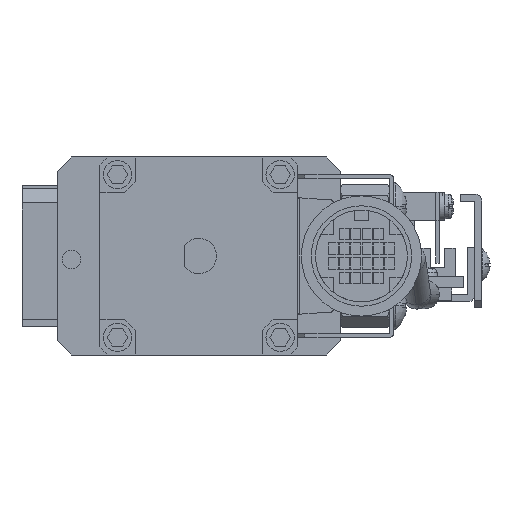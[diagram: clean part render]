
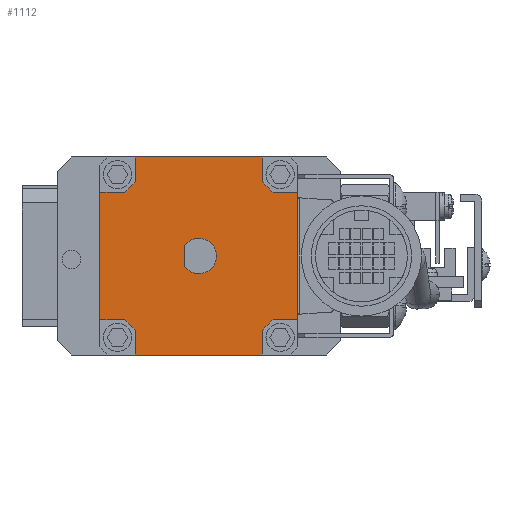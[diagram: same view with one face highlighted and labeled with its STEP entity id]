
A CAD part, left-side view. The second image highlights one B-rep face of the part: STEP entity #1112.
In plain terms, the highlighted planar face has unit normal (-1, 0, 0).
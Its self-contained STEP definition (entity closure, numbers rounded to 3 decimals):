
#529 = CARTESIAN_POINT ( 'NONE',  ( -74.363, 103.331, 38.5 ) ) ;
#954 = ORIENTED_EDGE ( 'NONE', *, *, #50451, .T. ) ;
#1112 = ADVANCED_FACE ( 'NONE', ( #11619, #63358 ), #10373, .F. ) ;
#1657 = CIRCLE ( 'NONE', #27062, 19. ) ;
#1944 = LINE ( 'NONE', #62813, #53727 ) ;
#2483 = DIRECTION ( 'NONE',  ( 0., 0., -1. ) ) ;
#2631 = VERTEX_POINT ( 'NONE', #10385 ) ;
#2769 = VECTOR ( 'NONE', #18935, 1000. ) ;
#4352 = LINE ( 'NONE', #19403, #2769 ) ;
#4494 = EDGE_CURVE ( 'NONE', #63801, #58887, #20079, .T. ) ;
#5332 = CARTESIAN_POINT ( 'NONE',  ( -74.363, 83.831, 15.5 ) ) ;
#5465 = CIRCLE ( 'NONE', #25545, 2.5 ) ;
#5474 = LINE ( 'NONE', #5332, #13369 ) ;
#5578 = VECTOR ( 'NONE', #45300, 1000. ) ;
#5681 = ORIENTED_EDGE ( 'NONE', *, *, #40330, .T. ) ;
#6122 = LINE ( 'NONE', #6175, #63357 ) ;
#6175 = CARTESIAN_POINT ( 'NONE',  ( -74.363, 94.831, 31. ) ) ;
#6346 = ORIENTED_EDGE ( 'NONE', *, *, #27405, .T. ) ;
#7265 = EDGE_CURVE ( 'NONE', #49440, #25415, #31714, .T. ) ;
#7278 = VERTEX_POINT ( 'NONE', #46559 ) ;
#7806 = EDGE_CURVE ( 'NONE', #49226, #63327, #6122, .T. ) ;
#8194 = CARTESIAN_POINT ( 'NONE',  ( -74.363, 69.667, 52.664 ) ) ;
#8233 = CARTESIAN_POINT ( 'NONE',  ( -74.363, 82.331, 20.5 ) ) ;
#9307 = VERTEX_POINT ( 'NONE', #55576 ) ;
#9453 = DIRECTION ( 'NONE',  ( 1., 0., 0. ) ) ;
#9458 = AXIS2_PLACEMENT_3D ( 'NONE', #22003, #57069, #32111 ) ;
#10024 = DIRECTION ( 'NONE',  ( 1., 0., 0. ) ) ;
#10373 = PLANE ( 'NONE',  #22085 ) ;
#10385 = CARTESIAN_POINT ( 'NONE',  ( -74.363, 101.831, 40. ) ) ;
#10410 = CARTESIAN_POINT ( 'NONE',  ( -74.363, 83.831, 15.5 ) ) ;
#10616 = CARTESIAN_POINT ( 'NONE',  ( -74.363, 78.831, 20.5 ) ) ;
#11520 = CARTESIAN_POINT ( 'NONE',  ( -74.363, 69.667, 6.336 ) ) ;
#11619 = FACE_OUTER_BOUND ( 'NONE', #40544, .T. ) ;
#11694 = CARTESIAN_POINT ( 'NONE',  ( -74.363, 63.133, 59.198 ) ) ;
#11892 = AXIS2_PLACEMENT_3D ( 'NONE', #11520, #41988, #11927 ) ;
#11927 = DIRECTION ( 'NONE',  ( 0., 0.745, 0.667 ) ) ;
#11972 = DIRECTION ( 'NONE',  ( 0., 1., 0. ) ) ;
#13369 = VECTOR ( 'NONE', #40433, 1000. ) ;
#13993 = ORIENTED_EDGE ( 'NONE', *, *, #22804, .T. ) ;
#16371 = ORIENTED_EDGE ( 'NONE', *, *, #30562, .T. ) ;
#16509 = DIRECTION ( 'NONE',  ( 1., 0., 0. ) ) ;
#16835 = LINE ( 'NONE', #55783, #34108 ) ;
#17530 = CIRCLE ( 'NONE', #9458, 19. ) ;
#18093 = CARTESIAN_POINT ( 'NONE',  ( -74.363, 106.831, 20.5 ) ) ;
#18472 = LINE ( 'NONE', #46272, #40459 ) ;
#18625 = CARTESIAN_POINT ( 'NONE',  ( -74.363, 83.831, 19. ) ) ;
#18631 = EDGE_CURVE ( 'NONE', #9307, #63724, #16835, .T. ) ;
#18748 = DIRECTION ( 'NONE',  ( 1., 0., 0. ) ) ;
#18935 = DIRECTION ( 'NONE',  ( 0., 0., -1. ) ) ;
#19403 = CARTESIAN_POINT ( 'NONE',  ( -74.363, 78.831, 38.5 ) ) ;
#19408 = VERTEX_POINT ( 'NONE', #52588 ) ;
#20079 = LINE ( 'NONE', #54987, #31851 ) ;
#20911 = CARTESIAN_POINT ( 'NONE',  ( -74.363, 82.331, 20.5 ) ) ;
#21170 = ORIENTED_EDGE ( 'NONE', *, *, #56461, .F. ) ;
#22003 = CARTESIAN_POINT ( 'NONE',  ( -74.363, 115.995, 6.336 ) ) ;
#22085 = AXIS2_PLACEMENT_3D ( 'NONE', #11694, #16509, #36268 ) ;
#22309 = EDGE_CURVE ( 'NONE', #37352, #49440, #23658, .T. ) ;
#22804 = EDGE_CURVE ( 'NONE', #30949, #7278, #40106, .T. ) ;
#23551 = ORIENTED_EDGE ( 'NONE', *, *, #40292, .F. ) ;
#23574 = VECTOR ( 'NONE', #45811, 1000. ) ;
#23633 = ORIENTED_EDGE ( 'NONE', *, *, #62615, .T. ) ;
#23658 = LINE ( 'NONE', #10410, #5578 ) ;
#24232 = CARTESIAN_POINT ( 'NONE',  ( -74.363, 101.831, 15.5 ) ) ;
#25017 = DIRECTION ( 'NONE',  ( 0., -1., 0. ) ) ;
#25112 = DIRECTION ( 'NONE',  ( 0., 0., 1. ) ) ;
#25415 = VERTEX_POINT ( 'NONE', #8233 ) ;
#25545 = AXIS2_PLACEMENT_3D ( 'NONE', #34836, #10024, #55386 ) ;
#26365 = CARTESIAN_POINT ( 'NONE',  ( -74.363, 94.831, 31. ) ) ;
#26789 = DIRECTION ( 'NONE',  ( 0., 1., 0. ) ) ;
#27015 = DIRECTION ( 'NONE',  ( 0., -1., 0. ) ) ;
#27062 = AXIS2_PLACEMENT_3D ( 'NONE', #49396, #18748, #58848 ) ;
#27102 = VECTOR ( 'NONE', #42673, 1000. ) ;
#27405 = EDGE_CURVE ( 'NONE', #2631, #30949, #1657, .T. ) ;
#27429 = CARTESIAN_POINT ( 'NONE',  ( -74.363, 103.331, 20.5 ) ) ;
#27782 = ORIENTED_EDGE ( 'NONE', *, *, #30025, .T. ) ;
#28767 = CARTESIAN_POINT ( 'NONE',  ( -74.363, 78.831, 38.5 ) ) ;
#30025 = EDGE_CURVE ( 'NONE', #49226, #63327, #5465, .T. ) ;
#30067 = ORIENTED_EDGE ( 'NONE', *, *, #7806, .F. ) ;
#30115 = CARTESIAN_POINT ( 'NONE',  ( -74.363, 94.831, 28. ) ) ;
#30562 = EDGE_CURVE ( 'NONE', #19408, #40909, #32882, .T. ) ;
#30949 = VERTEX_POINT ( 'NONE', #31066 ) ;
#31066 = CARTESIAN_POINT ( 'NONE',  ( -74.363, 103.331, 38.5 ) ) ;
#31714 = CIRCLE ( 'NONE', #11892, 19. ) ;
#31851 = VECTOR ( 'NONE', #25017, 1000. ) ;
#32111 = DIRECTION ( 'NONE',  ( 0., -0.667, 0.745 ) ) ;
#32813 = CARTESIAN_POINT ( 'NONE',  ( -74.363, 101.831, 19. ) ) ;
#32882 = CIRCLE ( 'NONE', #38595, 19. ) ;
#33606 = VECTOR ( 'NONE', #27015, 1000. ) ;
#33659 = ORIENTED_EDGE ( 'NONE', *, *, #4494, .F. ) ;
#34108 = VECTOR ( 'NONE', #45714, 1000. ) ;
#34228 = ORIENTED_EDGE ( 'NONE', *, *, #7265, .T. ) ;
#34377 = LINE ( 'NONE', #20911, #33606 ) ;
#34649 = CARTESIAN_POINT ( 'NONE',  ( -74.363, 83.831, 15.5 ) ) ;
#34836 = CARTESIAN_POINT ( 'NONE',  ( -74.363, 92.831, 29.5 ) ) ;
#35395 = VECTOR ( 'NONE', #11972, 1000. ) ;
#36262 = CARTESIAN_POINT ( 'NONE',  ( -74.363, 83.831, 43.5 ) ) ;
#36268 = DIRECTION ( 'NONE',  ( 0., 0., -1. ) ) ;
#36572 = DIRECTION ( 'NONE',  ( 0., 0.667, -0.745 ) ) ;
#37352 = VERTEX_POINT ( 'NONE', #34649 ) ;
#38140 = LINE ( 'NONE', #18093, #27102 ) ;
#38595 = AXIS2_PLACEMENT_3D ( 'NONE', #8194, #9453, #36572 ) ;
#39162 = LINE ( 'NONE', #49175, #54765 ) ;
#39789 = VERTEX_POINT ( 'NONE', #24232 ) ;
#39838 = EDGE_CURVE ( 'NONE', #59122, #50305, #4352, .T. ) ;
#40106 = LINE ( 'NONE', #529, #35395 ) ;
#40164 = CARTESIAN_POINT ( 'NONE',  ( -74.363, 101.831, 19. ) ) ;
#40292 = EDGE_CURVE ( 'NONE', #9307, #7278, #38140, .T. ) ;
#40330 = EDGE_CURVE ( 'NONE', #63801, #2631, #1944, .T. ) ;
#40433 = DIRECTION ( 'NONE',  ( 0., 1., 0. ) ) ;
#40459 = VECTOR ( 'NONE', #26789, 1000. ) ;
#40544 = EDGE_LOOP ( 'NONE', ( #58770, #954, #44918, #21170, #58289, #34228, #60673, #47130, #23633, #16371, #41842, #33659, #5681, #6346, #13993, #23551 ) ) ;
#40909 = VERTEX_POINT ( 'NONE', #42817 ) ;
#41842 = ORIENTED_EDGE ( 'NONE', *, *, #47710, .T. ) ;
#41988 = DIRECTION ( 'NONE',  ( 1., 0., 0. ) ) ;
#42673 = DIRECTION ( 'NONE',  ( 0., 0., 1. ) ) ;
#42817 = CARTESIAN_POINT ( 'NONE',  ( -74.363, 83.831, 40. ) ) ;
#43646 = CARTESIAN_POINT ( 'NONE',  ( -74.363, 101.831, 43.5 ) ) ;
#44918 = ORIENTED_EDGE ( 'NONE', *, *, #55187, .T. ) ;
#45300 = DIRECTION ( 'NONE',  ( 0., 0., 1. ) ) ;
#45714 = DIRECTION ( 'NONE',  ( 0., -1., 0. ) ) ;
#45811 = DIRECTION ( 'NONE',  ( 0., 0., -1. ) ) ;
#46272 = CARTESIAN_POINT ( 'NONE',  ( -74.363, 78.831, 38.5 ) ) ;
#46559 = CARTESIAN_POINT ( 'NONE',  ( -74.363, 106.831, 38.5 ) ) ;
#47130 = ORIENTED_EDGE ( 'NONE', *, *, #39838, .F. ) ;
#47710 = EDGE_CURVE ( 'NONE', #40909, #58887, #39162, .T. ) ;
#47878 = EDGE_CURVE ( 'NONE', #25415, #50305, #34377, .T. ) ;
#49175 = CARTESIAN_POINT ( 'NONE',  ( -74.363, 83.831, 40. ) ) ;
#49226 = VERTEX_POINT ( 'NONE', #26365 ) ;
#49396 = CARTESIAN_POINT ( 'NONE',  ( -74.363, 115.995, 52.664 ) ) ;
#49440 = VERTEX_POINT ( 'NONE', #18625 ) ;
#50240 = LINE ( 'NONE', #40164, #23574 ) ;
#50305 = VERTEX_POINT ( 'NONE', #10616 ) ;
#50451 = EDGE_CURVE ( 'NONE', #63724, #52242, #17530, .T. ) ;
#52242 = VERTEX_POINT ( 'NONE', #32813 ) ;
#52588 = CARTESIAN_POINT ( 'NONE',  ( -74.363, 82.331, 38.5 ) ) ;
#53727 = VECTOR ( 'NONE', #2483, 1000. ) ;
#54765 = VECTOR ( 'NONE', #25112, 1000. ) ;
#54987 = CARTESIAN_POINT ( 'NONE',  ( -74.363, 101.831, 43.5 ) ) ;
#55187 = EDGE_CURVE ( 'NONE', #52242, #39789, #50240, .T. ) ;
#55386 = DIRECTION ( 'NONE',  ( 0., -1., 0. ) ) ;
#55483 = DIRECTION ( 'NONE',  ( 0., 0., -1. ) ) ;
#55576 = CARTESIAN_POINT ( 'NONE',  ( -74.363, 106.831, 20.5 ) ) ;
#55783 = CARTESIAN_POINT ( 'NONE',  ( -74.363, 106.831, 20.5 ) ) ;
#56461 = EDGE_CURVE ( 'NONE', #37352, #39789, #5474, .T. ) ;
#57069 = DIRECTION ( 'NONE',  ( 1., 0., 0. ) ) ;
#58289 = ORIENTED_EDGE ( 'NONE', *, *, #22309, .T. ) ;
#58770 = ORIENTED_EDGE ( 'NONE', *, *, #18631, .T. ) ;
#58848 = DIRECTION ( 'NONE',  ( 0., -0.745, -0.667 ) ) ;
#58887 = VERTEX_POINT ( 'NONE', #36262 ) ;
#59122 = VERTEX_POINT ( 'NONE', #28767 ) ;
#59993 = EDGE_LOOP ( 'NONE', ( #30067, #27782 ) ) ;
#60673 = ORIENTED_EDGE ( 'NONE', *, *, #47878, .T. ) ;
#62615 = EDGE_CURVE ( 'NONE', #59122, #19408, #18472, .T. ) ;
#62813 = CARTESIAN_POINT ( 'NONE',  ( -74.363, 101.831, 43.5 ) ) ;
#63327 = VERTEX_POINT ( 'NONE', #30115 ) ;
#63357 = VECTOR ( 'NONE', #55483, 1000. ) ;
#63358 = FACE_BOUND ( 'NONE', #59993, .T. ) ;
#63724 = VERTEX_POINT ( 'NONE', #27429 ) ;
#63801 = VERTEX_POINT ( 'NONE', #43646 ) ;
